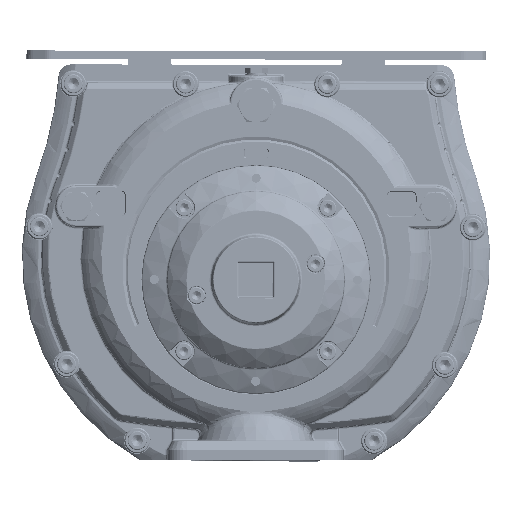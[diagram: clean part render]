
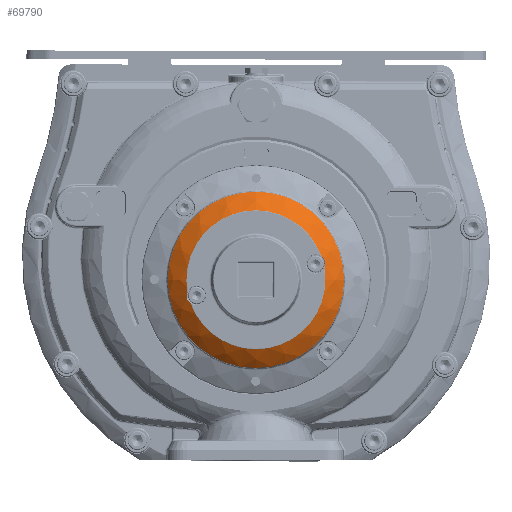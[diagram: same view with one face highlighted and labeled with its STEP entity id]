
A CAD part, left-side view. The second image highlights one B-rep face of the part: STEP entity #69790.
In plain terms, the highlighted free-form (B-spline) face has degree [2, 2] with [3, 9] control points.
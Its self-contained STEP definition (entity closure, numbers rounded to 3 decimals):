
#1475=(
BOUNDED_SURFACE()
B_SPLINE_SURFACE(2,2,((#130782,#130783,#130784,#130785,#130786,#130787,
#130788,#130789,#130790),(#130791,#130792,#130793,#130794,#130795,#130796,
#130797,#130798,#130799),(#130800,#130801,#130802,#130803,#130804,#130805,
#130806,#130807,#130808)),.UNSPECIFIED.,.F.,.T.,.F.)
B_SPLINE_SURFACE_WITH_KNOTS((3,3),(3,2,2,2,3),(-1.119,-0.756),
(-3.142,-1.571,0.,1.571,3.142),
 .UNSPECIFIED.)
GEOMETRIC_REPRESENTATION_ITEM()
RATIONAL_B_SPLINE_SURFACE(((1.,0.707,1.,0.707,1.,
0.707,1.,0.707,1.),(0.984,0.695,
0.984,0.695,0.984,0.695,
0.984,0.695,0.984),(1.,0.707,
1.,0.707,1.,0.707,1.,0.707,1.)))
REPRESENTATION_ITEM('')
SURFACE()
);
#9178=FACE_OUTER_BOUND('',#13436,.T.);
#13436=EDGE_LOOP('',(#55058,#55059,#55060,#55061,#55062,#55063,#55064,#55065));
#16598=B_SPLINE_CURVE_WITH_KNOTS('',3,(#130557,#130558,#130559,#130560,
#130561,#130562,#130563,#130564,#130565,#130566,#130567),.UNSPECIFIED.,
 .F.,.F.,(4,1,1,1,1,1,1,1,4),(-1.23,-1.01,-0.878,
-0.834,-0.527,-0.483,-0.439,
-0.176,0.),.UNSPECIFIED.);
#16606=B_SPLINE_CURVE_WITH_KNOTS('',3,(#130728,#130729,#130730,#130731,
#130732,#130733,#130734,#130735),.UNSPECIFIED.,.F.,.F.,(4,1,1,1,1,4),(-1.23,
-0.878,-0.703,-0.527,-0.351,
0.),.UNSPECIFIED.);
#28583=CIRCLE('',#75886,64.993);
#28584=CIRCLE('',#75887,64.993);
#28591=CIRCLE('',#75897,64.993);
#28592=CIRCLE('',#75899,82.455);
#28593=CIRCLE('',#75900,60.);
#32882=VERTEX_POINT('',#130475);
#32886=VERTEX_POINT('',#130555);
#32893=VERTEX_POINT('',#130631);
#32894=VERTEX_POINT('',#130633);
#32896=VERTEX_POINT('',#130666);
#32901=VERTEX_POINT('',#130809);
#40826=EDGE_CURVE('',#32886,#32882,#16598,.T.);
#40838=EDGE_CURVE('',#32893,#32882,#28583,.T.);
#40839=EDGE_CURVE('',#32894,#32893,#28584,.T.);
#40847=EDGE_CURVE('',#32894,#32896,#16606,.T.);
#40853=EDGE_CURVE('',#32886,#32896,#28591,.T.);
#40855=EDGE_CURVE('',#32901,#32901,#28592,.T.);
#40856=EDGE_CURVE('',#32901,#32893,#28593,.T.);
#55058=ORIENTED_EDGE('',*,*,#40855,.F.);
#55059=ORIENTED_EDGE('',*,*,#40856,.T.);
#55060=ORIENTED_EDGE('',*,*,#40838,.T.);
#55061=ORIENTED_EDGE('',*,*,#40826,.F.);
#55062=ORIENTED_EDGE('',*,*,#40853,.T.);
#55063=ORIENTED_EDGE('',*,*,#40847,.F.);
#55064=ORIENTED_EDGE('',*,*,#40839,.T.);
#55065=ORIENTED_EDGE('',*,*,#40856,.F.);
#69790=ADVANCED_FACE('',(#9178),#1475,.F.);
#75886=AXIS2_PLACEMENT_3D('',#130632,#87595,#87596);
#75887=AXIS2_PLACEMENT_3D('',#130634,#87597,#87598);
#75897=AXIS2_PLACEMENT_3D('',#130779,#87618,#87619);
#75899=AXIS2_PLACEMENT_3D('',#130810,#87623,#87624);
#75900=AXIS2_PLACEMENT_3D('',#130811,#87625,#87626);
#87595=DIRECTION('center_axis',(0.,0.,
1.));
#87596=DIRECTION('ref_axis',(1.,0.,0.));
#87597=DIRECTION('center_axis',(0.,0.,
1.));
#87598=DIRECTION('ref_axis',(1.,0.,0.));
#87618=DIRECTION('center_axis',(0.,0.,
1.));
#87619=DIRECTION('ref_axis',(1.,0.,0.));
#87623=DIRECTION('center_axis',(0.,0.,
1.));
#87624=DIRECTION('ref_axis',(1.,0.,0.));
#87625=DIRECTION('center_axis',(0.,-1.,0.));
#87626=DIRECTION('ref_axis',(-1.,0.,0.));
#130475=CARTESIAN_POINT('',(61.083,-0.704,-363.099));
#130555=CARTESIAN_POINT('',(64.001,10.187,-363.099));
#130557=CARTESIAN_POINT('Ctrl Pts',(64.001,10.187,-363.099));
#130558=CARTESIAN_POINT('Ctrl Pts',(64.287,9.537,-362.908));
#130559=CARTESIAN_POINT('Ctrl Pts',(64.626,8.434,-362.638));
#130560=CARTESIAN_POINT('Ctrl Pts',(64.762,7.131,-362.428));
#130561=CARTESIAN_POINT('Ctrl Pts',(64.774,5.525,-362.235));
#130562=CARTESIAN_POINT('Ctrl Pts',(64.524,4.205,-362.189));
#130563=CARTESIAN_POINT('Ctrl Pts',(64.028,2.98,-362.263));
#130564=CARTESIAN_POINT('Ctrl Pts',(63.536,1.916,-362.353));
#130565=CARTESIAN_POINT('Ctrl Pts',(62.615,0.586,
-362.599));
#130566=CARTESIAN_POINT('Ctrl Pts',(61.541,-0.368,
-362.946));
#130567=CARTESIAN_POINT('Ctrl Pts',(61.083,-0.704,
-363.099));
#130631=CARTESIAN_POINT('',(-64.993,21.5,-363.099));
#130632=CARTESIAN_POINT('Origin',(0.,21.5,
-363.099));
#130633=CARTESIAN_POINT('',(-64.001,32.813,-363.099));
#130634=CARTESIAN_POINT('Origin',(0.,21.5,
-363.099));
#130666=CARTESIAN_POINT('',(-61.083,43.704,-363.099));
#130728=CARTESIAN_POINT('Ctrl Pts',(-64.001,32.813,
-363.099));
#130729=CARTESIAN_POINT('Ctrl Pts',(-64.459,33.853,
-362.793));
#130730=CARTESIAN_POINT('Ctrl Pts',(-64.857,35.568,
-362.422));
#130731=CARTESIAN_POINT('Ctrl Pts',(-64.702,37.919,
-362.214));
#130732=CARTESIAN_POINT('Ctrl Pts',(-64.243,39.631,
-362.214));
#130733=CARTESIAN_POINT('Ctrl Pts',(-63.202,41.745,-362.422));
#130734=CARTESIAN_POINT('Ctrl Pts',(-61.999,43.032,
-362.793));
#130735=CARTESIAN_POINT('Ctrl Pts',(-61.083,43.704,-363.099));
#130779=CARTESIAN_POINT('Origin',(0.,21.5,
-363.099));
#130782=CARTESIAN_POINT('Ctrl Pts',(-64.993,21.5,
-363.099));
#130783=CARTESIAN_POINT('Ctrl Pts',(-64.993,-43.493,
-363.099));
#130784=CARTESIAN_POINT('Ctrl Pts',(0.,-43.493,
-363.099));
#130785=CARTESIAN_POINT('Ctrl Pts',(64.993,-43.493,
-363.099));
#130786=CARTESIAN_POINT('Ctrl Pts',(64.993,21.5,-363.099));
#130787=CARTESIAN_POINT('Ctrl Pts',(64.993,86.493,-363.099));
#130788=CARTESIAN_POINT('Ctrl Pts',(0.,86.493,
-363.099));
#130789=CARTESIAN_POINT('Ctrl Pts',(-64.993,86.493,-363.099));
#130790=CARTESIAN_POINT('Ctrl Pts',(-64.993,21.5,
-363.099));
#130791=CARTESIAN_POINT('Ctrl Pts',(-74.9,21.5,
-358.294));
#130792=CARTESIAN_POINT('Ctrl Pts',(-74.9,-53.4,
-358.294));
#130793=CARTESIAN_POINT('Ctrl Pts',(0.,-53.4,
-358.294));
#130794=CARTESIAN_POINT('Ctrl Pts',(74.9,-53.4,
-358.294));
#130795=CARTESIAN_POINT('Ctrl Pts',(74.9,21.5,-358.294));
#130796=CARTESIAN_POINT('Ctrl Pts',(74.9,96.4,-358.294));
#130797=CARTESIAN_POINT('Ctrl Pts',(0.,96.4,
-358.294));
#130798=CARTESIAN_POINT('Ctrl Pts',(-74.9,96.4,
-358.294));
#130799=CARTESIAN_POINT('Ctrl Pts',(-74.9,21.5,
-358.294));
#130800=CARTESIAN_POINT('Ctrl Pts',(-82.455,21.5,
-350.285));
#130801=CARTESIAN_POINT('Ctrl Pts',(-82.455,-60.955,
-350.285));
#130802=CARTESIAN_POINT('Ctrl Pts',(0.,-60.955,
-350.285));
#130803=CARTESIAN_POINT('Ctrl Pts',(82.455,-60.955,-350.285));
#130804=CARTESIAN_POINT('Ctrl Pts',(82.455,21.5,-350.285));
#130805=CARTESIAN_POINT('Ctrl Pts',(82.455,103.955,-350.285));
#130806=CARTESIAN_POINT('Ctrl Pts',(0.,103.955,
-350.285));
#130807=CARTESIAN_POINT('Ctrl Pts',(-82.455,103.955,-350.285));
#130808=CARTESIAN_POINT('Ctrl Pts',(-82.455,21.5,
-350.285));
#130809=CARTESIAN_POINT('',(-82.455,21.5,-350.285));
#130810=CARTESIAN_POINT('Origin',(0.,21.5,
-350.285));
#130811=CARTESIAN_POINT('Origin',(-38.809,21.5,-309.114));
